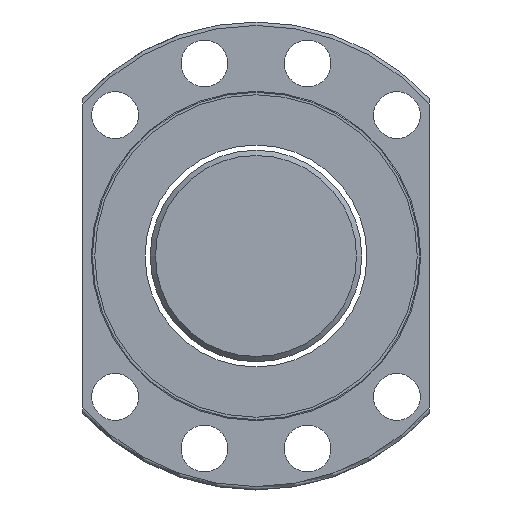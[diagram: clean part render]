
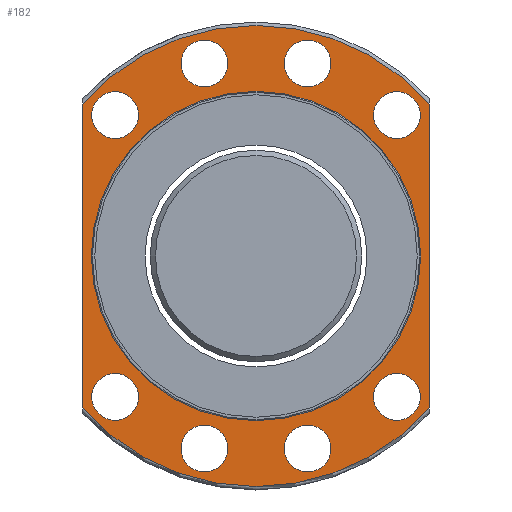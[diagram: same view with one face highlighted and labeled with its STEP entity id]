
A CAD part, left-side view. The second image highlights one B-rep face of the part: STEP entity #182.
In plain terms, the highlighted planar face has unit normal (-1, 0, 0).
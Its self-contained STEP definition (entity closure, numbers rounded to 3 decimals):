
#101=LINE('',#1354,#109);
#102=LINE('',#1355,#110);
#109=VECTOR('',#989,1.);
#110=VECTOR('',#990,1.);
#182=ADVANCED_FACE('',(#276,#277,#278,#279,#280,#281,#282,#283,#284,#242),
#218,.F.);
#218=PLANE('',#823);
#242=FACE_OUTER_BOUND('',#378,.T.);
#276=FACE_BOUND('',#369,.T.);
#277=FACE_BOUND('',#370,.T.);
#278=FACE_BOUND('',#371,.T.);
#279=FACE_BOUND('',#372,.T.);
#280=FACE_BOUND('',#373,.T.);
#281=FACE_BOUND('',#374,.T.);
#282=FACE_BOUND('',#375,.T.);
#283=FACE_BOUND('',#376,.T.);
#284=FACE_BOUND('',#377,.T.);
#369=EDGE_LOOP('',(#494));
#370=EDGE_LOOP('',(#495));
#371=EDGE_LOOP('',(#496));
#372=EDGE_LOOP('',(#497));
#373=EDGE_LOOP('',(#498));
#374=EDGE_LOOP('',(#499));
#375=EDGE_LOOP('',(#500));
#376=EDGE_LOOP('',(#501));
#377=EDGE_LOOP('',(#502));
#378=EDGE_LOOP('',(#503,#504,#505,#506));
#494=ORIENTED_EDGE('',*,*,#683,.T.);
#495=ORIENTED_EDGE('',*,*,#684,.T.);
#496=ORIENTED_EDGE('',*,*,#685,.T.);
#497=ORIENTED_EDGE('',*,*,#686,.T.);
#498=ORIENTED_EDGE('',*,*,#687,.T.);
#499=ORIENTED_EDGE('',*,*,#688,.T.);
#500=ORIENTED_EDGE('',*,*,#689,.T.);
#501=ORIENTED_EDGE('',*,*,#690,.T.);
#502=ORIENTED_EDGE('',*,*,#691,.T.);
#503=ORIENTED_EDGE('',*,*,#681,.F.);
#504=ORIENTED_EDGE('',*,*,#692,.T.);
#505=ORIENTED_EDGE('',*,*,#661,.F.);
#506=ORIENTED_EDGE('',*,*,#693,.F.);
#595=VERTEX_POINT('',#1196);
#596=VERTEX_POINT('',#1219);
#612=VERTEX_POINT('',#1313);
#613=VERTEX_POINT('',#1315);
#614=VERTEX_POINT('',#1337);
#615=VERTEX_POINT('',#1339);
#616=VERTEX_POINT('',#1341);
#617=VERTEX_POINT('',#1343);
#618=VERTEX_POINT('',#1345);
#619=VERTEX_POINT('',#1347);
#620=VERTEX_POINT('',#1349);
#621=VERTEX_POINT('',#1351);
#622=VERTEX_POINT('',#1353);
#661=EDGE_CURVE('',#596,#595,#726,.T.);
#681=EDGE_CURVE('',#612,#613,#739,.T.);
#683=EDGE_CURVE('',#614,#614,#740,.T.);
#684=EDGE_CURVE('',#615,#615,#741,.T.);
#685=EDGE_CURVE('',#616,#616,#742,.T.);
#686=EDGE_CURVE('',#617,#617,#743,.T.);
#687=EDGE_CURVE('',#618,#618,#744,.T.);
#688=EDGE_CURVE('',#619,#619,#745,.T.);
#689=EDGE_CURVE('',#620,#620,#746,.T.);
#690=EDGE_CURVE('',#621,#621,#747,.T.);
#691=EDGE_CURVE('',#622,#622,#748,.T.);
#692=EDGE_CURVE('',#612,#595,#101,.T.);
#693=EDGE_CURVE('',#613,#596,#102,.T.);
#726=CIRCLE('',#795,66.5);
#739=CIRCLE('',#812,66.5);
#740=CIRCLE('',#814,47.5);
#741=CIRCLE('',#815,6.75);
#742=CIRCLE('',#816,6.75);
#743=CIRCLE('',#817,6.75);
#744=CIRCLE('',#818,6.75);
#745=CIRCLE('',#819,6.75);
#746=CIRCLE('',#820,6.75);
#747=CIRCLE('',#821,6.75);
#748=CIRCLE('',#822,6.75);
#795=AXIS2_PLACEMENT_3D('',#1220,#929,#930);
#812=AXIS2_PLACEMENT_3D('',#1314,#967,#968);
#814=AXIS2_PLACEMENT_3D('',#1336,#971,#972);
#815=AXIS2_PLACEMENT_3D('',#1338,#973,#974);
#816=AXIS2_PLACEMENT_3D('',#1340,#975,#976);
#817=AXIS2_PLACEMENT_3D('',#1342,#977,#978);
#818=AXIS2_PLACEMENT_3D('',#1344,#979,#980);
#819=AXIS2_PLACEMENT_3D('',#1346,#981,#982);
#820=AXIS2_PLACEMENT_3D('',#1348,#983,#984);
#821=AXIS2_PLACEMENT_3D('',#1350,#985,#986);
#822=AXIS2_PLACEMENT_3D('',#1352,#987,#988);
#823=AXIS2_PLACEMENT_3D('',#1356,#991,#992);
#929=DIRECTION('',(1.,0.,0.));
#930=DIRECTION('',(0.,0.,-1.));
#967=DIRECTION('',(1.,0.,0.));
#968=DIRECTION('',(0.,0.,-1.));
#971=DIRECTION('',(1.,0.,0.));
#972=DIRECTION('',(0.,0.,-1.));
#973=DIRECTION('',(1.,0.,0.));
#974=DIRECTION('',(0.,0.,-1.));
#975=DIRECTION('',(1.,0.,0.));
#976=DIRECTION('',(0.,0.,-1.));
#977=DIRECTION('',(1.,0.,0.));
#978=DIRECTION('',(0.,0.,-1.));
#979=DIRECTION('',(1.,0.,0.));
#980=DIRECTION('',(0.,0.,-1.));
#981=DIRECTION('',(1.,0.,0.));
#982=DIRECTION('',(0.,0.,-1.));
#983=DIRECTION('',(1.,0.,0.));
#984=DIRECTION('',(0.,0.,-1.));
#985=DIRECTION('',(1.,0.,0.));
#986=DIRECTION('',(0.,0.,-1.));
#987=DIRECTION('',(1.,0.,0.));
#988=DIRECTION('',(0.,0.,-1.));
#989=DIRECTION('',(0.,0.,-1.));
#990=DIRECTION('',(0.,0.,-1.));
#991=DIRECTION('',(1.,0.,0.));
#992=DIRECTION('',(0.,0.,-1.));
#1196=CARTESIAN_POINT('',(-45.,50.,-43.843));
#1219=CARTESIAN_POINT('',(-45.,-50.,-43.843));
#1220=CARTESIAN_POINT('',(-45.,0.,0.));
#1313=CARTESIAN_POINT('',(-45.,50.,43.843));
#1314=CARTESIAN_POINT('',(-45.,0.,0.));
#1315=CARTESIAN_POINT('',(-45.,-50.,43.843));
#1336=CARTESIAN_POINT('',(-45.,0.,0.));
#1337=CARTESIAN_POINT('',(-45.,0.,-47.5));
#1338=CARTESIAN_POINT('',(-45.,14.882,55.541));
#1339=CARTESIAN_POINT('',(-45.,14.882,48.791));
#1340=CARTESIAN_POINT('',(-45.,-14.882,55.541));
#1341=CARTESIAN_POINT('',(-45.,-14.882,48.791));
#1342=CARTESIAN_POINT('',(-45.,-14.882,-55.541));
#1343=CARTESIAN_POINT('',(-45.,-14.882,-62.291));
#1344=CARTESIAN_POINT('',(-45.,14.882,-55.541));
#1345=CARTESIAN_POINT('',(-45.,14.882,-62.291));
#1346=CARTESIAN_POINT('',(-45.,-40.659,-40.659));
#1347=CARTESIAN_POINT('',(-45.,-40.659,-47.409));
#1348=CARTESIAN_POINT('',(-45.,-40.659,40.659));
#1349=CARTESIAN_POINT('',(-45.,-40.659,33.909));
#1350=CARTESIAN_POINT('',(-45.,40.659,40.659));
#1351=CARTESIAN_POINT('',(-45.,40.659,33.909));
#1352=CARTESIAN_POINT('',(-45.,40.659,-40.659));
#1353=CARTESIAN_POINT('',(-45.,40.659,-47.409));
#1354=CARTESIAN_POINT('',(-45.,50.,0.));
#1355=CARTESIAN_POINT('',(-45.,-50.,0.));
#1356=CARTESIAN_POINT('',(-45.,57.,0.));
